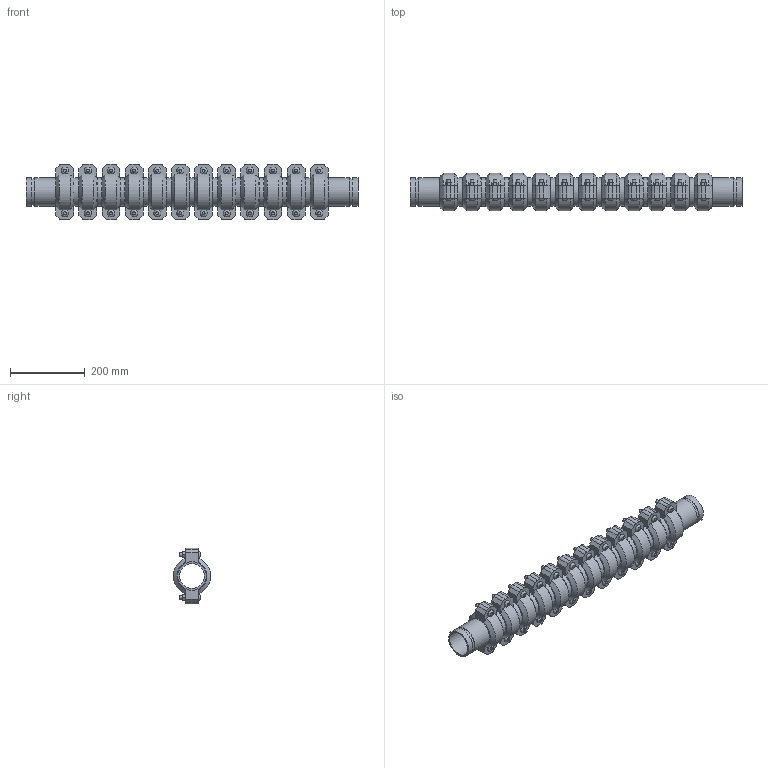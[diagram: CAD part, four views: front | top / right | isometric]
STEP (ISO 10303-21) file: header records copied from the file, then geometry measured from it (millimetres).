
FILE_DESCRIPTION(/* description */ ('VIC EXPANSION JOINT 12 COUPLINGS EXPANDED STYLE 155 (OGS)','CAx-IF Rec.Pracs.---Representation and Presentation of Product Manufacturing Information (PMI)---4.0---2014-10-13'),/* implementation_level */ '2;1');
FILE_NAME(/* name */ 'C:\Users\kkamble\AppData\Roaming\Autodesk\ApplicationPlugins\Victaulic.Temp\A519\Victaulic_IPS_Expansion Joint_Expanded_12 Couplings_Style 155 (OGS)_02.5 (76.1) (65).stp',/* time_stamp */ '2021-06-26T23:54:17+02:00',/* author */ ('kkamble'),/* organization */ ('Victaulic'),/* preprocessor_version */ 'ST-DEVELOPER v17.2',/* originating_system */ 'Autodesk Inventor 2019',/* authorisation */ '');
FILE_SCHEMA (('AP242_MANAGED_MODEL_BASED_3D_ENGINEERING_MIM_LF { 1 0 10303 442 1 1 4 }'));
Length unit declared in the file: inch
Products named in the file (4): 155-02.5 (76.1); Nipple-02.5 (76.1); Nipple-02.5 (76.1)_1; 075-02.5 (76.1)
Assembly tree (25 placements, depth 2):
  155-02.5 (76.1)
    Nipple-02.5 (76.1)  x2
    Nipple-02.5 (76.1)_1  x11
    075-02.5 (76.1)  x12
Bounding box: 889.25 x 101.25 x 149.86 mm (x, y, z)
Volume: 3490853.2 mm3; surface area: 984500.7 mm2
Topology: 25 solids, 49 shells, 840 faces, 2034 edges, 1416 vertices
Faces by surface type: plane 510, cylinder 258, cone 48, bspline 24
Full cylindrical faces by diameter (mm): 9.525 x48, 11.43 x24, 66.65 x13, 69.85 x12, 72.263 x26, 76.2 x63
Entity records: 2963 total; most frequent: CARTESIAN_POINT 541, DIRECTION 495, ORIENTED_EDGE 394, AXIS2_PLACEMENT_3D 200, EDGE_CURVE 197, VERTEX_POINT 140, EDGE_LOOP 105, LINE 95
